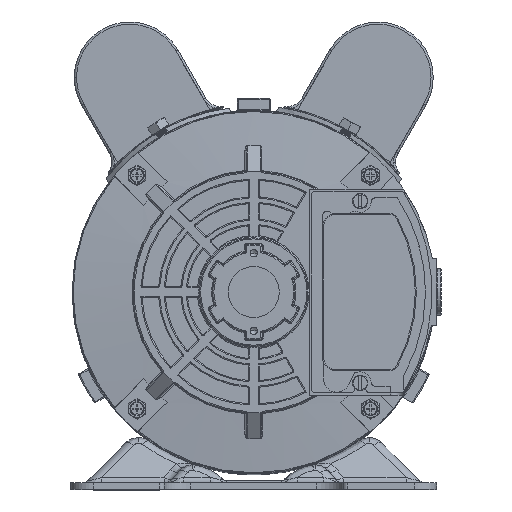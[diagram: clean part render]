
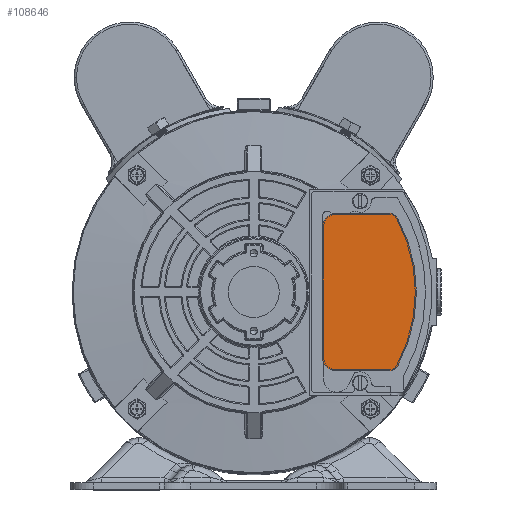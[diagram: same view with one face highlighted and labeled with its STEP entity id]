
A CAD part, top view. The second image highlights one B-rep face of the part: STEP entity #108646.
In plain terms, the highlighted planar face has unit normal (0, 0, 1).
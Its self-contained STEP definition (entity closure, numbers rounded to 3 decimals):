
#1623 = CIRCLE ( 'NONE', #68659, 6. ) ;
#2849 = VERTEX_POINT ( 'NONE', #65867 ) ;
#4006 = EDGE_CURVE ( 'NONE', #35535, #2849, #109006, .T. ) ;
#6455 = VECTOR ( 'NONE', #63393, 1000. ) ;
#6630 = VERTEX_POINT ( 'NONE', #17124 ) ;
#8105 = DIRECTION ( 'NONE',  ( 0., -1., 0. ) ) ;
#8715 = DIRECTION ( 'NONE',  ( 0., 0., 1. ) ) ;
#10421 = EDGE_CURVE ( 'NONE', #23412, #35535, #116465, .T. ) ;
#11731 = ORIENTED_EDGE ( 'NONE', *, *, #21674, .T. ) ;
#14229 = CARTESIAN_POINT ( 'NONE',  ( 45.4, -8.74, 490.625 ) ) ;
#14330 = DIRECTION ( 'NONE',  ( 0., -1., 0. ) ) ;
#14566 = CARTESIAN_POINT ( 'NONE',  ( 41.885, 56.169, 490.625 ) ) ;
#17124 = CARTESIAN_POINT ( 'NONE',  ( 41.885, -10.831, 490.625 ) ) ;
#18976 = CARTESIAN_POINT ( 'NONE',  ( 17.507, -10.831, 490.625 ) ) ;
#21640 = DIRECTION ( 'NONE',  ( 1., 0., 0. ) ) ;
#21674 = EDGE_CURVE ( 'NONE', #6630, #61243, #46763, .T. ) ;
#23412 = VERTEX_POINT ( 'NONE', #109549 ) ;
#26831 = CARTESIAN_POINT ( 'NONE',  ( 11.507, 60.169, 490.625 ) ) ;
#29613 = CIRCLE ( 'NONE', #96613, 70. ) ;
#29872 = EDGE_LOOP ( 'NONE', ( #79059, #11731, #68844, #87627, #73934, #65389, #53852, #88374 ) ) ;
#29938 = EDGE_CURVE ( 'NONE', #2849, #104607, #1623, .T. ) ;
#30174 = EDGE_CURVE ( 'NONE', #104607, #6630, #112457, .T. ) ;
#30300 = CARTESIAN_POINT ( 'NONE',  ( 11.507, -10.831, 490.625 ) ) ;
#30672 = PLANE ( 'NONE',  #110206 ) ;
#33279 = DIRECTION ( 'NONE',  ( -1., 0., 0. ) ) ;
#35535 = VERTEX_POINT ( 'NONE', #100336 ) ;
#36533 = DIRECTION ( 'NONE',  ( 0., 0., 1. ) ) ;
#39431 = VERTEX_POINT ( 'NONE', #96304 ) ;
#45319 = DIRECTION ( 'NONE',  ( 0., -1., 0. ) ) ;
#46763 = CIRCLE ( 'NONE', #113835, 4. ) ;
#51121 = DIRECTION ( 'NONE',  ( 0., 0., 1. ) ) ;
#53716 = CARTESIAN_POINT ( 'NONE',  ( 17.507, -4.831, 490.625 ) ) ;
#53852 = ORIENTED_EDGE ( 'NONE', *, *, #4006, .T. ) ;
#56508 = AXIS2_PLACEMENT_3D ( 'NONE', #14566, #51121, #87709 ) ;
#57285 = EDGE_CURVE ( 'NONE', #116843, #39431, #108255, .T. ) ;
#59908 = CARTESIAN_POINT ( 'NONE',  ( 17.507, 54.169, 490.625 ) ) ;
#61243 = VERTEX_POINT ( 'NONE', #14229 ) ;
#63393 = DIRECTION ( 'NONE',  ( 0., -1., 0. ) ) ;
#64737 = AXIS2_PLACEMENT_3D ( 'NONE', #59908, #96457, #14330 ) ;
#65389 = ORIENTED_EDGE ( 'NONE', *, *, #10421, .T. ) ;
#65867 = CARTESIAN_POINT ( 'NONE',  ( 11.507, -4.831, 490.625 ) ) ;
#66384 = CARTESIAN_POINT ( 'NONE',  ( 45.4, 58.078, 490.625 ) ) ;
#66868 = DIRECTION ( 'NONE',  ( 1., 0., 0. ) ) ;
#67214 = CARTESIAN_POINT ( 'NONE',  ( -16.113, 24.669, 490.625 ) ) ;
#68659 = AXIS2_PLACEMENT_3D ( 'NONE', #53716, #90281, #8105 ) ;
#68844 = ORIENTED_EDGE ( 'NONE', *, *, #76839, .T. ) ;
#73068 = DIRECTION ( 'NONE',  ( 0., -1., 0. ) ) ;
#73934 = ORIENTED_EDGE ( 'NONE', *, *, #96163, .T. ) ;
#76839 = EDGE_CURVE ( 'NONE', #61243, #116843, #29613, .T. ) ;
#78855 = LINE ( 'NONE', #115431, #107093 ) ;
#79059 = ORIENTED_EDGE ( 'NONE', *, *, #30174, .T. ) ;
#87627 = ORIENTED_EDGE ( 'NONE', *, *, #57285, .T. ) ;
#87709 = DIRECTION ( 'NONE',  ( 0., -1., 0. ) ) ;
#88374 = ORIENTED_EDGE ( 'NONE', *, *, #29938, .T. ) ;
#90281 = DIRECTION ( 'NONE',  ( 0., 0., 1. ) ) ;
#90865 = CARTESIAN_POINT ( 'NONE',  ( 41.885, -6.831, 490.625 ) ) ;
#96163 = EDGE_CURVE ( 'NONE', #39431, #23412, #78855, .T. ) ;
#96304 = CARTESIAN_POINT ( 'NONE',  ( 41.885, 60.169, 490.625 ) ) ;
#96457 = DIRECTION ( 'NONE',  ( 0., 0., 1. ) ) ;
#96613 = AXIS2_PLACEMENT_3D ( 'NONE', #118693, #36533, #73068 ) ;
#100336 = CARTESIAN_POINT ( 'NONE',  ( 11.507, 54.169, 490.625 ) ) ;
#103792 = DIRECTION ( 'NONE',  ( 0., 0., 1. ) ) ;
#104607 = VERTEX_POINT ( 'NONE', #18976 ) ;
#107093 = VECTOR ( 'NONE', #33279, 1000. ) ;
#108255 = CIRCLE ( 'NONE', #56508, 4. ) ;
#108646 = ADVANCED_FACE ( 'NONE', ( #112834 ), #30672, .T. ) ;
#109006 = LINE ( 'NONE', #26831, #6455 ) ;
#109549 = CARTESIAN_POINT ( 'NONE',  ( 17.507, 60.169, 490.625 ) ) ;
#110206 = AXIS2_PLACEMENT_3D ( 'NONE', #67214, #103792, #21640 ) ;
#112457 = LINE ( 'NONE', #30300, #118500 ) ;
#112834 = FACE_OUTER_BOUND ( 'NONE', #29872, .T. ) ;
#113835 = AXIS2_PLACEMENT_3D ( 'NONE', #90865, #8715, #45319 ) ;
#115431 = CARTESIAN_POINT ( 'NONE',  ( 44.217, 60.169, 490.625 ) ) ;
#116465 = CIRCLE ( 'NONE', #64737, 6. ) ;
#116843 = VERTEX_POINT ( 'NONE', #66384 ) ;
#118500 = VECTOR ( 'NONE', #66868, 1000. ) ;
#118693 = CARTESIAN_POINT ( 'NONE',  ( -16.113, 24.669, 490.625 ) ) ;
